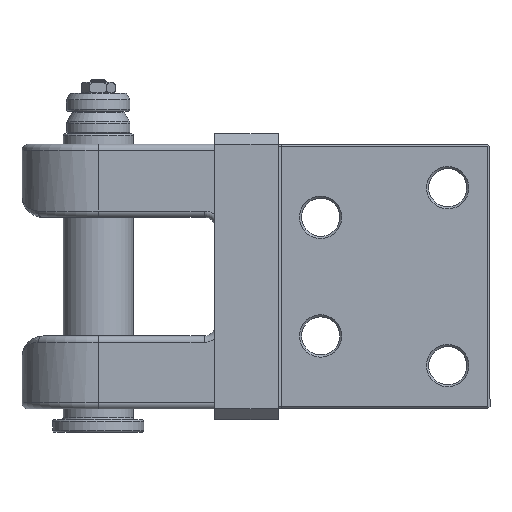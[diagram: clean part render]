
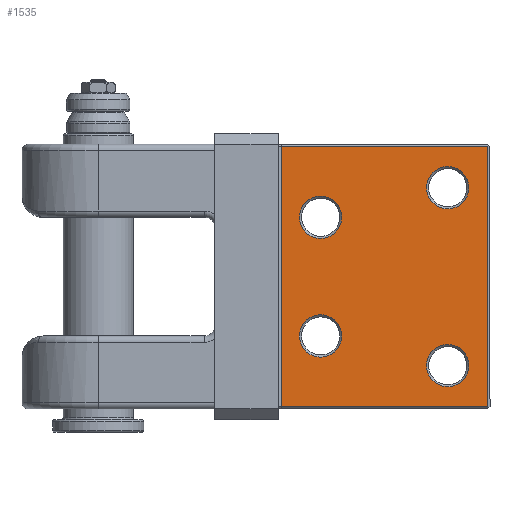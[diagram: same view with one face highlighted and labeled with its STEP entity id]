
A CAD part, left-side view. The second image highlights one B-rep face of the part: STEP entity #1535.
In plain terms, the highlighted planar face has unit normal (-1, 0, 0).
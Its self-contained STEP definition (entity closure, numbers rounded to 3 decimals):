
#1019=CIRCLE('',#10084,10.);
#1020=CIRCLE('',#10085,10.);
#1021=CIRCLE('',#10086,10.);
#1022=CIRCLE('',#10087,10.);
#1535=ADVANCED_FACE('',(#3359,#3360,#3361,#3362,#3363),#1864,.F.);
#1864=PLANE('',#10088);
#2428=LINE('',#24453,#3174);
#2429=LINE('',#24456,#3175);
#2430=LINE('',#24458,#3176);
#2431=LINE('',#24460,#3177);
#3174=VECTOR('',#11745,1.);
#3175=VECTOR('',#11746,1.);
#3176=VECTOR('',#11747,1.);
#3177=VECTOR('',#11748,1.);
#3359=FACE_BOUND('',#3937,.T.);
#3360=FACE_BOUND('',#3938,.T.);
#3361=FACE_BOUND('',#3939,.T.);
#3362=FACE_BOUND('',#3940,.T.);
#3363=FACE_BOUND('',#3941,.T.);
#3937=EDGE_LOOP('',(#6295));
#3938=EDGE_LOOP('',(#6296));
#3939=EDGE_LOOP('',(#6297));
#3940=EDGE_LOOP('',(#6298));
#3941=EDGE_LOOP('',(#6299,#6300,#6301,#6302));
#6295=ORIENTED_EDGE('',*,*,#8829,.T.);
#6296=ORIENTED_EDGE('',*,*,#8830,.T.);
#6297=ORIENTED_EDGE('',*,*,#8831,.T.);
#6298=ORIENTED_EDGE('',*,*,#8832,.T.);
#6299=ORIENTED_EDGE('',*,*,#8833,.T.);
#6300=ORIENTED_EDGE('',*,*,#8834,.T.);
#6301=ORIENTED_EDGE('',*,*,#8835,.T.);
#6302=ORIENTED_EDGE('',*,*,#8836,.T.);
#7593=VERTEX_POINT('',#24446);
#7594=VERTEX_POINT('',#24448);
#7595=VERTEX_POINT('',#24450);
#7596=VERTEX_POINT('',#24452);
#7597=VERTEX_POINT('',#24454);
#7598=VERTEX_POINT('',#24455);
#7599=VERTEX_POINT('',#24457);
#7600=VERTEX_POINT('',#24459);
#8829=EDGE_CURVE('',#7593,#7593,#1019,.T.);
#8830=EDGE_CURVE('',#7594,#7594,#1020,.T.);
#8831=EDGE_CURVE('',#7595,#7595,#1021,.T.);
#8832=EDGE_CURVE('',#7596,#7596,#1022,.T.);
#8833=EDGE_CURVE('',#7597,#7598,#2428,.T.);
#8834=EDGE_CURVE('',#7598,#7599,#2429,.T.);
#8835=EDGE_CURVE('',#7599,#7600,#2430,.T.);
#8836=EDGE_CURVE('',#7600,#7597,#2431,.T.);
#10084=AXIS2_PLACEMENT_3D('',#24445,#11737,#11738);
#10085=AXIS2_PLACEMENT_3D('',#24447,#11739,#11740);
#10086=AXIS2_PLACEMENT_3D('',#24449,#11741,#11742);
#10087=AXIS2_PLACEMENT_3D('',#24451,#11743,#11744);
#10088=AXIS2_PLACEMENT_3D('',#24461,#11749,#11750);
#11737=DIRECTION('',(1.,0.,0.));
#11738=DIRECTION('',(0.,0.,-1.));
#11739=DIRECTION('',(1.,0.,0.));
#11740=DIRECTION('',(0.,0.,-1.));
#11741=DIRECTION('',(1.,0.,0.));
#11742=DIRECTION('',(0.,0.,-1.));
#11743=DIRECTION('',(1.,0.,0.));
#11744=DIRECTION('',(0.,0.,-1.));
#11745=DIRECTION('',(0.,0.,1.));
#11746=DIRECTION('',(0.,1.,0.));
#11747=DIRECTION('',(0.,0.,-1.));
#11748=DIRECTION('',(0.,-1.,0.));
#11749=DIRECTION('',(1.,0.,0.));
#11750=DIRECTION('',(0.,0.,-1.));
#24445=CARTESIAN_POINT('',(-25.,20.,-20.5));
#24446=CARTESIAN_POINT('',(-25.,20.,-30.5));
#24447=CARTESIAN_POINT('',(-25.,80.,-34.5));
#24448=CARTESIAN_POINT('',(-25.,80.,-44.5));
#24449=CARTESIAN_POINT('',(-25.,80.,-90.5));
#24450=CARTESIAN_POINT('',(-25.,80.,-100.5));
#24451=CARTESIAN_POINT('',(-25.,20.,-104.5));
#24452=CARTESIAN_POINT('',(-25.,20.,-114.5));
#24453=CARTESIAN_POINT('',(-25.,1.,0.));
#24454=CARTESIAN_POINT('',(-25.,1.,-124.));
#24455=CARTESIAN_POINT('',(-25.,1.,-1.));
#24456=CARTESIAN_POINT('',(-25.,0.,-1.));
#24457=CARTESIAN_POINT('',(-25.,98.5,-1.));
#24458=CARTESIAN_POINT('',(-25.,98.5,0.));
#24459=CARTESIAN_POINT('',(-25.,98.5,-124.));
#24460=CARTESIAN_POINT('',(-25.,0.,-124.));
#24461=CARTESIAN_POINT('',(-25.,0.,0.));
